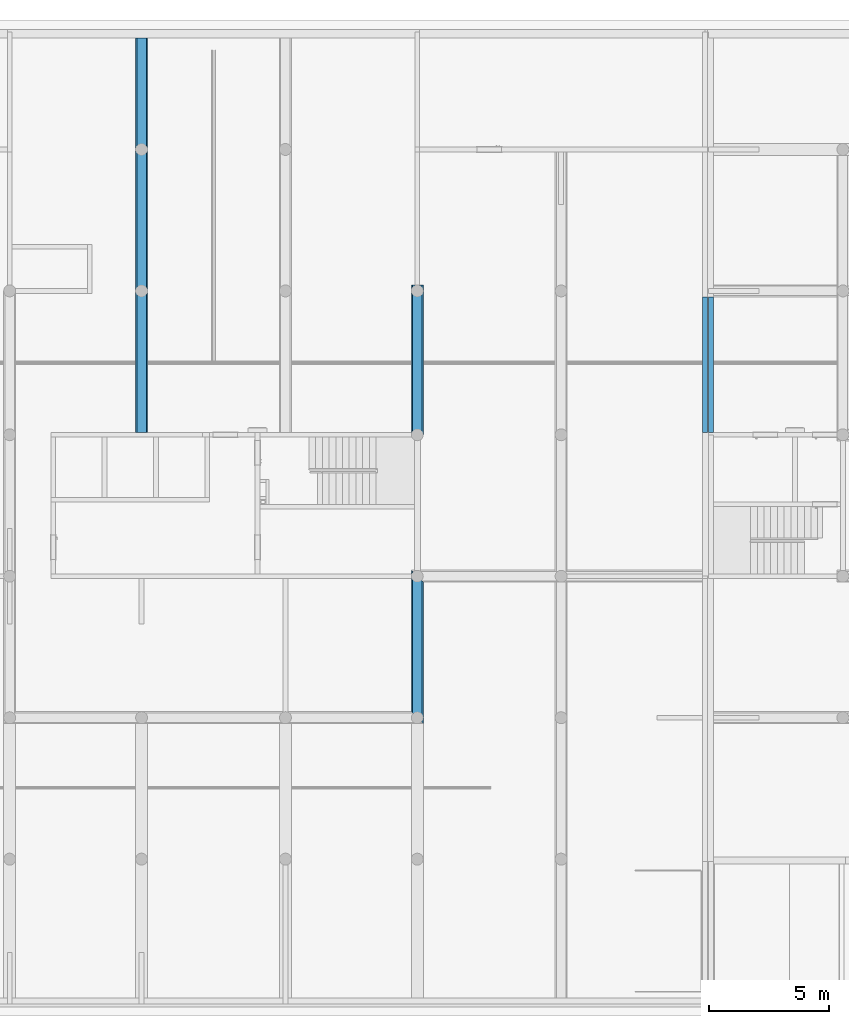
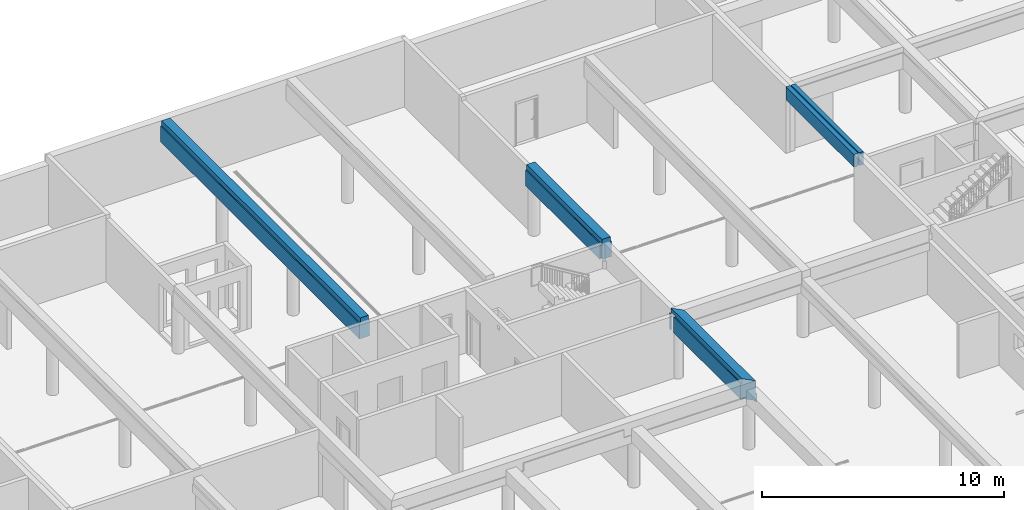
# One storey, part 10 of 25: 5 beams.
"""IFC2X3 building model written with IfcOpenShell, lengths in millimetres."""

from ifc_helpers import new_model, entity, si_unit, converted_unit, derived_unit, money_unit, direction, frame, origin_with_axes, place, context, subcontext, project, spatial, faceted_brep, material, material_list, type_object, element, save


model = new_model("IFC2X3")

# Units and contexts
model_context = context("Model", 3, precision=0.01, world=origin_with_axes(), true_north=direction((0.34421633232, 0.938890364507)))
body_context = subcontext(model_context, "Body", "Model", "MODEL_VIEW")
ifc_project = project(units=[si_unit("LENGTHUNIT", "METRE", prefix="MILLI"), si_unit("AREAUNIT", "SQUARE_METRE"), si_unit("VOLUMEUNIT", "CUBIC_METRE"), converted_unit("PLANEANGLEUNIT", "DEGREE", entity("IfcPlaneAngleMeasure", 0.0174532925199), si_unit("PLANEANGLEUNIT", "RADIAN"), dimensions=[0, 0, 0, 0, 0, 0, 0]), si_unit("SOLIDANGLEUNIT", "STERADIAN"), money_unit("USD"), converted_unit("TIMEUNIT", "Year", entity("IfcTimeMeasure", 31556926.0), si_unit("TIMEUNIT", "SECOND"), dimensions=[0, 0, 1, 0, 0, 0, 0]), si_unit("MASSUNIT", "GRAM", prefix="KILO"), si_unit("THERMODYNAMICTEMPERATUREUNIT", "DEGREE_CELSIUS"), si_unit("LUMINOUSINTENSITYUNIT", "LUMEN"), si_unit("ENERGYUNIT", "JOULE", prefix="MEGA"), derived_unit("THERMALCONDUCTANCEUNIT", [(si_unit("POWERUNIT", "WATT"), 1), (si_unit("LENGTHUNIT", "METRE"), -1), (si_unit("THERMODYNAMICTEMPERATUREUNIT", "KELVIN"), -1)]), derived_unit("SPECIFICHEATCAPACITYUNIT", [(si_unit("ENERGYUNIT", "JOULE"), 1), (si_unit("MASSUNIT", "GRAM", prefix="KILO"), -1), (si_unit("THERMODYNAMICTEMPERATUREUNIT", "KELVIN"), -1)]), derived_unit("MASSDENSITYUNIT", [(si_unit("MASSUNIT", "GRAM", prefix="KILO"), 1), (si_unit("VOLUMEUNIT", "CUBIC_METRE"), -1)])], contexts=[model_context])

# Site, building, storey
site_placement = place(None, origin_with_axes())
site = spatial("IfcSite", under=ifc_project, at=site_placement, Name="USTRONIE MORSKIE", CompositionType="ELEMENT")
building_placement = place(site_placement, origin_with_axes())
building = spatial("IfcBuilding", under=site, at=building_placement, Name="Budynek", CompositionType="ELEMENT")
storey_placement = place(building_placement, frame((0.0, 0.0, -3600.0), z_axis=(0.0, 0.0, 1.0), x_axis=(1.0, 0.0, 0.0)))
storey = spatial("IfcBuildingStorey", under=building, at=storey_placement, Name="GARAZ", CompositionType="ELEMENT", Elevation=-3600.0)

# Beams
ifc_material_1 = material(Name="Beton konstrukcyjny 01")
beam_type_1 = type_object("IfcBeamType", Name="Beton konstrukcyjny 01 200 x 650", PredefinedType="NOTDEFINED")
beam_1_placement = place(storey_placement, frame((408567.920919, 738551.199036, 3370.00030619), z_axis=(0.0, 0.0, 1.0), x_axis=(-1.0, 0.0, 0.0)))
element("IfcBeam", 1, at=beam_1_placement, inside=storey, type_object=beam_type_1, material=ifc_material_1, Name="B1", context=body_context, shape_type="Brep", body=[
    faceted_brep([(-100.0, 0.0, -650.00030624), (-100.0, 5650.0, -650.00030624), (100.0, 5650.0, -650.00030624), (100.0, 0.0, -650.00030624), (-100.0, 0.0, 0.0), (-100.0, 5650.0, 0.0), (100.0, 5650.0, 0.0), (100.0, 0.0, 0.0)], [[[0, 1, 2, 3]], [[4, 5, 1, 0]], [[2, 1, 5, 6]], [[3, 2, 6, 7]], [[4, 0, 3, 7]], [[7, 6, 5, 4]]]),
])
beam_2_placement = place(storey_placement, frame((408317.920919, 738551.199036, 3370.00030619), z_axis=(0.0, 0.0, 1.0), x_axis=(-1.0, 0.0, 0.0)))
element("IfcBeam", 2, at=beam_2_placement, inside=storey, type_object=beam_type_1, material=ifc_material_1, Name="B1", context=body_context, shape_type="Brep", body=[
    faceted_brep([(-100.0, 0.0, -650.000306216), (-100.0, 5650.0, -650.000306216), (100.0, 5650.0, -650.000306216), (100.0, 0.0, -650.000306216), (-100.0, 0.0, 0.0), (-100.0, 5650.0, 0.0), (100.0, 5650.0, 0.0), (100.0, 0.0, 0.0)], [[[0, 1, 2, 3]], [[4, 5, 1, 0]], [[2, 1, 5, 6]], [[3, 2, 6, 7]], [[4, 0, 3, 7]], [[7, 6, 5, 4]]]),
])
ifc_material_2 = material(Name="Termoizolacja WEŁNA SKALNA")
ifc_material_list = material_list([ifc_material_2, ifc_material_1])
beam_type_2 = type_object("IfcBeamType", Name="GARAŻ P01 500 x 1050", PredefinedType="NOTDEFINED")
beam_3_placement = place(storey_placement, frame((396317.920919, 732801.199036, 3370.00030619), z_axis=(0.0, 0.0, 1.0), x_axis=(1.0, 0.0, 0.0)))
element("IfcBeam", 3, at=beam_3_placement, inside=storey, type_object=beam_type_2, material=ifc_material_list, Name="B1", context=body_context, shape_type="Brep", body=[
    faceted_brep([(249.999993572, 5991.33732416, -1050.0), (249.999993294, 5991.33732098, -1000.0), (249.999993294, 6008.66267902, -1000.0), (249.999993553, 6008.66267606, -1050.0), (249.999993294, 6250.0, -1050.0), (249.999993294, 6250.0, -250.00000447), (249.999993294, 0.0, -250.00000447), (250.0, 0.0, -1000.0), (250.0, 0.0, -1050.0), (246.959817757, 5956.58795558, -1050.0), (246.959817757, 5956.58795558, -1000.0), (235.681034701, 5914.49496417, -1000.0), (217.26423045, 5875.0, -1000.0), (199.99999553, 5850.34411731, -1000.0), (199.99999553, 6149.65588269, -1000.0), (217.26423045, 6125.0, -1000.0), (235.681034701, 6085.50503583, -1000.0), (246.959817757, 6043.41204442, -1000.0), (246.959817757, 6043.41204442, -1050.0), (125.757879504, 6216.50635095, -1050.0), (100.728569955, 6228.17770967, -1050.0), (100.725766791, 6250.0, -1050.0), (235.681034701, 6085.50503583, -1050.0), (217.26423045, 6125.0, -1050.0), (192.268990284, 6160.69690242, -1050.0), (161.454781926, 6191.51111078, -1050.0), (100.725766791, 6250.0, -1000.00000224), (199.99999553, 6250.0, -1000.00000224), (199.99999553, 6250.0, -250.00000447), (199.99999553, 0.0, -250.00000447), (199.99999553, 0.0, -1000.0), (246.201938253, 43.4120444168, -1050.0), (246.201938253, 43.4120444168, -1000.0), (234.923155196, 85.5050358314, -1050.0), (216.506350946, 125.0, -1050.0), (191.51111078, 160.696902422, -1050.0), (160.696902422, 191.51111078, -1050.0), (125.0, 216.506350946, -1050.0), (85.5050358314, 234.923155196, -1050.0), (43.4120444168, 246.201938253, -1050.0), (0.0, 250.0, -1050.0), (-43.4120444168, 246.201938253, -1050.0), (-85.5050358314, 234.923155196, -1050.0), (-125.0, 216.506350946, -1050.0), (-160.696902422, 191.51111078, -1050.0), (-191.51111078, 160.696902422, -1050.0), (-216.506350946, 125.0, -1050.0), (-228.1640424, 100.0, -1050.0), (-250.0, 100.0, -1050.0), (-250.0, 6250.0, -1050.0), (-99.2742348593, 6250.0, -1050.0), (-99.2714281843, 6228.150376, -1050.0), (-124.242120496, 6216.50635095, -1050.0), (-159.939022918, 6191.51111078, -1050.0), (-190.753231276, 6160.69690242, -1050.0), (-215.748471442, 6125.0, -1050.0), (-234.165275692, 6085.50503583, -1050.0), (-245.444058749, 6043.41204442, -1050.0), (-249.242120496, 6000.0, -1050.0), (-245.444058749, 5956.58795558, -1050.0), (-234.165275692, 5914.49496417, -1050.0), (-215.748471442, 5875.0, -1050.0), (-190.753231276, 5839.30309758, -1050.0), (-159.939022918, 5808.48888922, -1050.0), (-124.242120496, 5783.49364905, -1050.0), (-84.7471563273, 5765.0768448, -1050.0), (-42.6541649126, 5753.79806175, -1050.0), (0.757879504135, 5750.0, -1050.0), (44.1699239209, 5753.79806175, -1050.0), (86.2629153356, 5765.0768448, -1050.0), (125.757879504, 5783.49364905, -1050.0), (161.454781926, 5808.48888922, -1050.0), (192.268990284, 5839.30309758, -1050.0), (217.26423045, 5875.0, -1050.0), (235.681034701, 5914.49496417, -1050.0), (192.268990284, 5839.30309758, -1000.0), (199.99999553, 148.573518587, -1000.0), (192.268990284, 6160.69690242, -1000.0), (125.757879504, 6216.50635095, -1000.0), (100.728569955, 6228.17770967, -1000.0), (161.454781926, 6191.51111078, -1000.0), (216.506350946, 125.0, -1000.0), (234.923155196, 85.5050358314, -1000.0), (191.51111078, 160.696902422, -1000.0), (160.696902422, 191.51111078, -1000.0), (125.0, 216.506350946, -1000.0), (85.5050358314, 234.923155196, -1000.0), (43.4120444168, 246.201938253, -1000.0), (0.0, 250.0, -1000.0), (-43.4120444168, 246.201938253, -1000.0), (-85.5050358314, 234.923155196, -1000.0), (-125.0, 216.506350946, -1000.0), (-160.696902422, 191.51111078, -1000.0), (-191.51111078, 160.696902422, -1000.0), (-200.000002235, 148.57350901, -1000.0), (-216.506350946, 125.0, -1000.0), (-228.1640424, 100.0, -1000.0), (-200.000002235, 100.0, -1000.0), (-200.000002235, 100.0, -250.00000447), (-250.0, 100.0, -250.00000447), (-250.0, 6250.0, -250.00000447), (-200.000002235, 6250.0, -1000.00000224), (-99.2742348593, 6250.0, -1000.00000224), (-200.000002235, 6250.0, -250.00000447), (-99.2714281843, 6228.150376, -1000.0), (-124.242120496, 6216.50635095, -1000.0), (-159.939022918, 6191.51111078, -1000.0), (-190.753231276, 6160.69690242, -1000.0), (-200.000002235, 6147.49114491, -1000.0), (-215.748471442, 6125.0, -1000.0), (-234.165275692, 6085.50503583, -1000.0), (-245.444058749, 6043.41204442, -1000.0), (-249.242120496, 6000.0, -1000.0), (-245.444058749, 5956.58795558, -1000.0), (-234.165275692, 5914.49496417, -1000.0), (-215.748471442, 5875.0, -1000.0), (-200.000002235, 5852.50885509, -1000.0), (-190.753231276, 5839.30309758, -1000.0), (-159.939022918, 5808.48888922, -1000.0), (-124.242120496, 5783.49364905, -1000.0), (-84.7471563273, 5765.0768448, -1000.0), (-42.6541649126, 5753.79806175, -1000.0), (0.757879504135, 5750.0, -1000.0), (44.1699239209, 5753.79806175, -1000.0), (86.2629153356, 5765.0768448, -1000.0), (125.757879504, 5783.49364905, -1000.0), (161.454781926, 5808.48888922, -1000.0)], [[[0, 1, 2, 3, 4, 5, 6, 7, 8]], [[1, 0, 9, 10]], [[2, 1, 10, 11, 12, 13, 14, 15, 16, 17]], [[3, 2, 17, 18]], [[19, 20, 21, 4, 3, 18, 22, 23, 24, 25]], [[4, 21, 26, 27, 28, 5]], [[29, 6, 5, 28]], [[30, 7, 6, 29]], [[31, 8, 7, 32]], [[9, 0, 8, 31, 33, 34, 35, 36, 37, 38, 39, 40, 41, 42, 43, 44, 45, 46, 47, 48, 49, 50, 51, 52, 53, 54, 55, 56, 57, 58, 59, 60, 61, 62, 63, 64, 65, 66, 67, 68, 69, 70, 71, 72, 73, 74]], [[9, 74, 11, 10]], [[74, 73, 12, 11]], [[73, 72, 75, 13, 12]], [[14, 13, 76, 30, 29, 28, 27]], [[24, 23, 15, 14, 77]], [[23, 22, 16, 15]], [[22, 18, 17, 16]], [[78, 79, 20, 19]], [[20, 79, 26, 21]], [[77, 80, 25, 24]], [[80, 78, 19, 25]], [[77, 14, 27, 26, 79, 78, 80]], [[7, 30, 76, 81, 82, 32]], [[33, 31, 32, 82]], [[34, 33, 82, 81]], [[35, 34, 81, 76, 83]], [[83, 84, 36, 35]], [[84, 85, 37, 36]], [[85, 86, 38, 37]], [[86, 87, 39, 38]], [[87, 88, 40, 39]], [[88, 89, 41, 40]], [[89, 90, 42, 41]], [[90, 91, 43, 42]], [[91, 92, 44, 43]], [[92, 93, 45, 44]], [[93, 94, 95, 46, 45]], [[47, 46, 95, 96]], [[96, 97, 98, 99, 48, 47]], [[49, 48, 99, 100]], [[101, 102, 50, 49, 100, 103]], [[104, 51, 50, 102]], [[51, 104, 105, 52]], [[105, 106, 53, 52]], [[106, 107, 54, 53]], [[107, 108, 109, 55, 54]], [[56, 55, 109, 110]], [[57, 56, 110, 111]], [[58, 57, 111, 112]], [[59, 58, 112, 113]], [[60, 59, 113, 114]], [[61, 60, 114, 115]], [[116, 117, 62, 61, 115]], [[117, 118, 63, 62]], [[118, 119, 64, 63]], [[119, 120, 65, 64]], [[120, 121, 66, 65]], [[121, 122, 67, 66]], [[122, 123, 68, 67]], [[123, 124, 69, 68]], [[124, 125, 70, 69]], [[125, 126, 71, 70]], [[126, 75, 72, 71]], [[117, 116, 94, 93, 92, 91, 90, 89, 88, 87, 86, 85, 84, 83, 76, 13, 75, 126, 125, 124, 123, 122, 121, 120, 119, 118]], [[94, 97, 96, 95]], [[116, 108, 101, 103, 98, 97, 94]], [[100, 99, 98, 103]], [[105, 104, 102, 101, 108, 107, 106]], [[108, 116, 115, 114, 113, 112, 111, 110, 109]]]),
    faceted_brep([(200.0, 0.0, -1000.0), (200.0, 6250.0, -1000.0), (199.99999553, 6250.0, -250.00000447), (199.99999553, 0.0, -250.00000447), (-200.0, 0.0, -1000.0), (-200.0, 6250.0, -1000.0), (-200.000002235, 6250.0, -250.00000447), (-200.0, 6250.0, 0.0), (200.0, 6250.0, 0.0), (200.0, 0.0, 0.0), (-200.0, 0.0, 0.0), (-200.000002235, 0.0, -250.00000447)], [[[0, 1, 2, 3]], [[4, 5, 1, 0]], [[2, 1, 5, 6, 7, 8]], [[3, 2, 8, 9]], [[4, 0, 3, 9, 10, 11]], [[11, 6, 5, 4]], [[10, 7, 6, 11]], [[9, 8, 7, 10]]]),
])
beam_4_placement = place(storey_placement, frame((396317.920919, 721001.199036, 3370.00030619), z_axis=(0.0, 0.0, 1.0), x_axis=(1.0, 0.0, 0.0)))
element("IfcBeam", 4, at=beam_4_placement, inside=storey, type_object=beam_type_2, material=ifc_material_list, Name="B1", context=body_context, shape_type="Brep", body=[
    faceted_brep([(249.999993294, -0.171527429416, -1050.0), (249.999993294, -0.171527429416, -1000.0), (249.999993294, 0.171527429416, -1000.0), (249.999993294, 0.171527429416, -1050.0), (249.999993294, 5650.00000671, -1050.0), (249.999993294, 5650.00000671, -650.000306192), (249.999993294, -249.999993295, -650.000306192), (249.999993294, -249.999993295, -1050.0), (246.216710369, -43.4146491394, -1050.0), (246.216710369, -43.4146491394, -1000.0), (234.937250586, -85.5101661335, -1000.0), (216.519341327, -125.0075, -1000.0), (199.99999553, -148.599570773, -1000.0), (199.99999553, 148.599570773, -1000.0), (216.519341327, 125.0075, -1000.0), (234.937250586, 85.5101661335, -1000.0), (246.216710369, 43.4146491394, -1000.0), (246.216710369, 43.4146491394, -1050.0), (-160.706544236, 191.522601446, -1050.0), (-176.114572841, 176.114572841, -1050.0), (-250.0, 250.0, -1050.0), (-250.0, 5800.0, -1050.0), (-228.1640424, 5800.0, -1050.0), (-216.506350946, 5775.0, -1050.0), (-191.51111078, 5739.30309758, -1050.0), (-160.696902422, 5708.48888922, -1050.0), (-125.0, 5683.49364905, -1050.0), (-85.5050358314, 5665.0768448, -1050.0), (-43.4120444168, 5653.79806175, -1050.0), (0.0, 5650.0, -1050.0), (43.4120444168, 5653.79806175, -1050.0), (85.5050358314, 5665.0768448, -1050.0), (125.0, 5683.49364905, -1050.0), (160.696902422, 5708.48888922, -1050.0), (176.104006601, 5723.8959934, -1050.0), (234.937250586, 85.5101661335, -1050.0), (216.519341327, 125.0075, -1050.0), (191.522601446, 160.706544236, -1050.0), (160.706544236, 191.522601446, -1050.0), (125.0075, 216.519341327, -1050.0), (85.5101661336, 234.937250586, -1050.0), (43.4146491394, 246.216710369, -1050.0), (0.0, 250.015, -1050.0), (-43.4146491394, 246.216710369, -1050.0), (-85.5101661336, 234.937250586, -1050.0), (-125.0075, 216.519341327, -1050.0), (176.104006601, 5723.8959934, -1000.00000224), (199.99999553, 5700.00000447, -1000.00000224), (199.99999553, 5700.00000447, -650.000306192), (199.99999553, -199.99999553, -650.000306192), (176.114572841, -176.114572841, -1000.0), (176.114572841, -176.114572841, -1050.0), (199.99999553, -199.99999553, -1000.00000224), (191.522601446, -160.706544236, -1050.0), (216.519341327, -125.0075, -1050.0), (234.937250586, -85.5101661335, -1050.0), (191.522601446, -160.706544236, -1000.0), (191.522601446, 160.706544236, -1000.0), (-160.706544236, 191.522601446, -1000.0), (-176.114572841, 176.114572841, -1000.0), (-200.000002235, 200.000002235, -1000.00000224), (-200.000002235, 200.000002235, -250.00000447), (-250.0, 250.0, -250.00000447), (-250.0, 5800.0, -250.00000447), (-228.1640424, 5800.0, -250.00000447), (-216.506350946, 5775.0, -250.00000447), (-200.000002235, 5751.42649099, -1000.00000224), (-191.51111078, 5739.30309758, -1000.00000224), (-200.000002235, 5751.42649099, -250.00000447), (-160.696902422, 5708.48888922, -1000.00000224), (-125.0, 5683.49364905, -1000.00000224), (-85.5050358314, 5665.0768448, -1000.00000224), (-43.4120444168, 5653.79806175, -1000.00000224), (0.0, 5650.0, -1000.00000224), (43.4120444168, 5653.79806175, -1000.00000224), (85.5050358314, 5665.0768448, -1000.00000224), (125.0, 5683.49364905, -1000.00000224), (160.696902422, 5708.48888922, -1000.00000224), (160.706544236, 191.522601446, -1000.0), (125.0075, 216.519341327, -1000.0), (85.5101661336, 234.937250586, -1000.0), (43.4146491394, 246.216710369, -1000.0), (0.0, 250.015, -1000.0), (-43.4146491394, 246.216710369, -1000.0), (-85.5101661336, 234.937250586, -1000.0), (-125.0075, 216.519341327, -1000.0)], [[[0, 1, 2, 3, 4, 5, 6, 7]], [[1, 0, 8, 9]], [[2, 1, 9, 10, 11, 12, 13, 14, 15, 16]], [[3, 2, 16, 17]], [[18, 19, 20, 21, 22, 23, 24, 25, 26, 27, 28, 29, 30, 31, 32, 33, 34, 4, 3, 17, 35, 36, 37, 38, 39, 40, 41, 42, 43, 44, 45]], [[34, 46, 47, 48, 5, 4]], [[49, 6, 5, 48]], [[50, 51, 7, 6, 49, 52]], [[8, 0, 7, 51, 53, 54, 55]], [[8, 55, 10, 9]], [[55, 54, 11, 10]], [[54, 53, 56, 12, 11]], [[13, 12, 52, 49, 48, 47]], [[37, 36, 14, 13, 57]], [[36, 35, 15, 14]], [[35, 17, 16, 15]], [[58, 59, 19, 18]], [[19, 59, 60, 61, 62, 20]], [[20, 62, 63, 21]], [[64, 22, 21, 63]], [[64, 65, 23, 22]], [[66, 67, 24, 23, 65, 68]], [[67, 69, 25, 24]], [[69, 70, 26, 25]], [[70, 71, 27, 26]], [[71, 72, 28, 27]], [[72, 73, 29, 28]], [[73, 74, 30, 29]], [[74, 75, 31, 30]], [[75, 76, 32, 31]], [[76, 77, 33, 32]], [[77, 46, 34, 33]], [[57, 78, 38, 37]], [[78, 79, 39, 38]], [[79, 80, 40, 39]], [[80, 81, 41, 40]], [[81, 82, 42, 41]], [[82, 83, 43, 42]], [[83, 84, 44, 43]], [[84, 85, 45, 44]], [[85, 58, 18, 45]], [[57, 13, 47, 46, 77, 76, 75, 74, 73, 72, 71, 70, 69, 67, 66, 60, 59, 58, 85, 84, 83, 82, 81, 80, 79, 78]], [[50, 56, 53, 51]], [[56, 50, 52, 12]], [[66, 68, 61, 60]], [[65, 64, 63, 62, 61, 68]]]),
    faceted_brep([(-200.000002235, 6048.57350901, -1000.00000224), (-191.51111078, 6060.69690242, -1000.00000224), (-176.104006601, 6076.1040066, -1000.00000224), (-200.000002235, 6100.00000224, -1000.00000224), (-200.000002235, 6048.57350901, -250.00000447), (-216.506350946, 6025.0, -250.00000447), (-216.506350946, 6025.0, -1050.0), (-191.51111078, 6060.69690242, -1050.0), (-176.104006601, 6076.1040066, -1050.0), (-250.0, 6150.0, -1050.0), (-250.0, 6150.0, -250.00000447), (-200.000002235, 6100.00000224, -250.00000447), (-250.0, 6000.0, -250.00000447), (-228.1640424, 6000.0, -250.00000447), (-228.1640424, 6000.0, -1050.0), (-250.0, 6000.0, -1050.0)], [[[0, 1, 2, 3]], [[1, 0, 4, 5, 6, 7]], [[8, 2, 1, 7]], [[2, 8, 9, 10, 11, 3]], [[4, 0, 3, 11]], [[5, 4, 11, 10, 12, 13]], [[5, 13, 14, 6]], [[6, 14, 15, 9, 8, 7]], [[10, 9, 15, 12]], [[14, 13, 12, 15]]]),
    faceted_brep([(199.99999553, 5700.00000447, -250.00000447), (199.99999553, -100.006562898, -250.00000447), (250.0, -100.006562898, -250.00000447), (249.999993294, 5650.00000671, -250.00000447), (199.99999553, 5700.00000447, -350.000306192), (199.99999553, -100.006562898, -350.000306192), (250.0, -100.006562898, -350.000306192), (249.999993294, 5650.00000671, -350.000306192)], [[[0, 1, 2, 3]], [[4, 5, 1, 0]], [[5, 6, 2, 1]], [[3, 2, 6, 7]], [[3, 7, 4, 0]], [[7, 6, 5, 4]]]),
    faceted_brep([(-176.104006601, 6076.1040066, -190.000306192), (-176.104006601, 6076.1040066, -1000.0), (-200.0, 6100.0, -1000.0), (-200.000002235, 6100.00000224, -250.00000447), (-200.0, 6100.0, 0.0), (200.0, 5700.0, 0.0), (199.99999553, 5700.00000447, -250.00000447), (200.0, 5700.0, -1000.0), (176.104006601, 5723.8959934, -1000.0), (176.104006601, 5723.8959934, -190.000306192), (-191.51111078, 6060.69690242, -190.000306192), (-191.51111078, 6060.69690242, -1000.0), (-200.0, 6048.5735122, -1000.0), (-200.000002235, 6048.57350901, -250.00000447), (-199.999998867, 5751.42648618, -190.000306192), (-200.000002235, 5751.42649099, -250.00000447), (-200.000002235, 200.000002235, -250.00000447), (-200.0, 200.0, 0.0), (-199.999998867, 6048.57351382, -190.000306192), (200.0, -200.0, 0.0), (199.99999553, -199.99999553, -250.00000447), (200.0, -200.0, -1000.0), (160.696902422, 5708.48888922, -1000.0), (-200.0, 200.0, -1000.0), (-200.0, 5751.4264878, -1000.0), (-191.51111078, 5739.30309758, -1000.0), (-160.696902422, 5708.48888922, -1000.0), (-125.0, 5683.49364905, -1000.0), (-85.5050358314, 5665.0768448, -1000.0), (-43.4120444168, 5653.79806175, -1000.0), (0.0, 5650.0, -1000.0), (43.4120444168, 5653.79806175, -1000.0), (85.5050358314, 5665.0768448, -1000.0), (125.0, 5683.49364905, -1000.0), (160.696902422, 5708.48888922, -190.000306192), (125.0, 5683.49364905, -190.000306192), (85.5050358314, 5665.0768448, -190.000306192), (43.4120444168, 5653.79806175, -190.000306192), (0.0, 5650.0, -190.000306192), (-43.4120444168, 5653.79806175, -190.000306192), (-85.5050358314, 5665.0768448, -190.000306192), (-125.0, 5683.49364905, -190.000306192), (-160.696902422, 5708.48888922, -190.000306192), (-191.51111078, 5739.30309758, -190.000306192)], [[[0, 1, 2, 3, 4, 5, 6, 7, 8, 9]], [[1, 0, 10, 11]], [[11, 12, 2, 1]], [[12, 13, 3, 2]], [[14, 15, 16, 17, 4, 3, 13, 18]], [[19, 5, 4, 17]], [[20, 6, 5, 19]], [[21, 7, 6, 20]], [[22, 8, 7, 21, 23, 24, 25, 26, 27, 28, 29, 30, 31, 32, 33]], [[9, 8, 22, 34]], [[0, 9, 34, 35, 36, 37, 38, 39, 40, 41, 42, 43, 14, 18, 10]], [[12, 11, 10, 18, 13]], [[25, 24, 15, 14, 43]], [[15, 24, 23, 16]], [[23, 21, 20, 19, 17, 16]], [[26, 25, 43, 42]], [[27, 26, 42, 41]], [[28, 27, 41, 40]], [[29, 28, 40, 39]], [[30, 29, 39, 38]], [[31, 30, 38, 37]], [[32, 31, 37, 36]], [[33, 32, 36, 35]], [[22, 33, 35, 34]]]),
])
beam_5_placement = place(storey_placement, frame((384817.920919, 732901.199036, 3370.00030619), z_axis=(0.0, 0.0, 1.0), x_axis=(1.0, 0.0, 0.0)))
element("IfcBeam", 5, at=beam_5_placement, inside=storey, type_object=beam_type_2, material=ifc_material_list, Name="B1", context=body_context, shape_type="Brep", body=[
    faceted_brep([(160.696902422, 11991.5111108, -1000.0), (191.51111078, 11960.6969024, -1000.0), (199.99999553, 11948.5735186, -1000.0), (199.99999553, 16450.0, -1000.00000224), (-200.000002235, 16450.0, -1000.00000224), (-200.000002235, 11948.573509, -1000.0), (-191.51111078, 11960.6969024, -1000.0), (-160.696902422, 11991.5111108, -1000.0), (-125.0, 12016.5063509, -1000.0), (-85.5050358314, 12034.9231552, -1000.0), (-43.4120444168, 12046.2019383, -1000.0), (0.0, 12050.0, -1000.0), (43.4120444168, 12046.2019383, -1000.0), (85.5050358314, 12034.9231552, -1000.0), (125.0, 12016.5063509, -1000.0), (160.696902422, 11991.5111108, -1050.0), (191.51111078, 11960.6969024, -1050.0), (216.506350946, 11925.0, -1050.0), (216.506350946, 11925.0, -1000.0), (199.99999553, 11651.4264814, -1000.0), (199.99999553, 6048.57351859, -1000.0), (199.99999553, 5751.42648141, -1000.0), (199.99999553, 0.0, -1000.00000224), (199.99999553, 0.0, -250.00000447), (199.99999553, 16450.0, -250.00000447), (-250.0, 16450.0, -1050.0), (-250.0, 16450.0, -250.00000447), (-200.000002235, 16450.0, -250.00000447), (249.999993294, 16450.0, -250.00000447), (249.999993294, 16450.0, -1050.0), (-200.000002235, 11651.426491, -1000.0), (-200.000002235, 0.0, -250.00000447), (-200.000002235, 0.0, -1000.00000224), (-200.000002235, 5751.42649099, -1000.0), (-200.000002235, 6048.57350901, -1000.0), (-216.506350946, 11925.0, -1000.0), (-216.506350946, 11925.0, -1050.0), (-191.51111078, 11960.6969024, -1050.0), (-160.696902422, 11991.5111108, -1050.0), (-125.0, 12016.5063509, -1050.0), (-85.5050358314, 12034.9231552, -1050.0), (-43.4120444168, 12046.2019383, -1050.0), (0.0, 12050.0, -1050.0), (43.4120444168, 12046.2019383, -1050.0), (85.5050358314, 12034.9231552, -1050.0), (125.0, 12016.5063509, -1050.0), (-246.201938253, 11843.4120444, -1050.0), (-250.0, 11800.0, -1050.0), (250.0, 11800.0, -1050.0), (246.201938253, 11843.4120444, -1050.0), (234.923155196, 11885.5050358, -1050.0), (-234.923155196, 11885.5050358, -1050.0), (234.923155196, 11885.5050358, -1000.0), (246.201938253, 11843.4120444, -1000.0), (250.0, 11800.0, -1000.0), (246.201938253, 11756.5879556, -1000.0), (234.923155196, 11714.4949642, -1000.0), (216.506350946, 11675.0, -1000.0), (-191.51111078, 11639.3030976, -1000.0), (-191.51111078, 6060.69690242, -1000.0), (-160.696902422, 6091.51111078, -1000.0), (-125.0, 6116.50635095, -1000.0), (-85.5050358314, 6134.9231552, -1000.0), (-43.4120444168, 6146.20193825, -1000.0), (0.0, 6150.0, -1000.0), (43.4120444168, 6146.20193825, -1000.0), (85.5050358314, 6134.9231552, -1000.0), (125.0, 6116.50635095, -1000.0), (160.696902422, 6091.51111078, -1000.0), (191.51111078, 6060.69690242, -1000.0), (191.51111078, 11639.3030976, -1000.0), (160.696902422, 11608.4888892, -1000.0), (125.0, 11583.4936491, -1000.0), (85.5050358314, 11565.0768448, -1000.0), (43.4120444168, 11553.7980617, -1000.0), (0.0, 11550.0, -1000.0), (-43.4120444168, 11553.7980617, -1000.0), (-85.5050358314, 11565.0768448, -1000.0), (-125.0, 11583.4936491, -1000.0), (-160.696902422, 11608.4888892, -1000.0), (216.506350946, 6025.0, -1000.0), (234.923155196, 5985.50503583, -1000.0), (246.201938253, 5943.41204442, -1000.0), (250.0, 5900.0, -1000.0), (246.201938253, 5856.58795558, -1000.0), (234.923155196, 5814.49496417, -1000.0), (216.506350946, 5775.0, -1000.0), (-191.51111078, 5739.30309758, -1000.0), (191.51111078, 5739.30309758, -1000.0), (160.696902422, 5708.48888922, -1000.0), (125.0, 5683.49364905, -1000.0), (85.5050358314, 5665.0768448, -1000.0), (43.4120444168, 5653.79806175, -1000.0), (0.0, 5650.0, -1000.0), (-43.4120444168, 5653.79806175, -1000.0), (-85.5050358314, 5665.0768448, -1000.0), (-125.0, 5683.49364905, -1000.0), (-160.696902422, 5708.48888922, -1000.0), (-250.0, 0.0, -250.00000447), (-250.0, 0.0, -1050.0), (249.999993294, 0.0, -1050.0), (249.999993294, 0.0, -250.00000447), (-250.0, 5900.0, -1050.0), (250.0, 5900.0, -1050.0), (-216.506350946, 11675.0, -1000.0), (-234.923155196, 11714.4949642, -1000.0), (-246.201938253, 11756.5879556, -1000.0), (-250.0, 11800.0, -1000.0), (-246.201938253, 11843.4120444, -1000.0), (-234.923155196, 11885.5050358, -1000.0), (-216.506350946, 5775.0, -1000.0), (-234.923155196, 5814.49496417, -1000.0), (-246.201938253, 5856.58795558, -1000.0), (-250.0, 5900.0, -1000.0), (-246.201938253, 5943.41204442, -1000.0), (-234.923155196, 5985.50503583, -1000.0), (-216.506350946, 6025.0, -1000.0), (246.201938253, 11756.5879556, -1050.0), (234.923155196, 11714.4949642, -1050.0), (216.506350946, 11675.0, -1050.0), (191.51111078, 11639.3030976, -1050.0), (-191.51111078, 11639.3030976, -1050.0), (-216.506350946, 11675.0, -1050.0), (-216.506350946, 6025.0, -1050.0), (-191.51111078, 6060.69690242, -1050.0), (-160.696902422, 6091.51111078, -1050.0), (-125.0, 6116.50635095, -1050.0), (-85.5050358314, 6134.9231552, -1050.0), (-43.4120444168, 6146.20193825, -1050.0), (0.0, 6150.0, -1050.0), (43.4120444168, 6146.20193825, -1050.0), (85.5050358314, 6134.9231552, -1050.0), (125.0, 6116.50635095, -1050.0), (160.696902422, 6091.51111078, -1050.0), (191.51111078, 6060.69690242, -1050.0), (216.506350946, 6025.0, -1050.0), (160.696902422, 11608.4888892, -1050.0), (125.0, 11583.4936491, -1050.0), (85.5050358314, 11565.0768448, -1050.0), (43.4120444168, 11553.7980617, -1050.0), (0.0, 11550.0, -1050.0), (-43.4120444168, 11553.7980617, -1050.0), (-85.5050358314, 11565.0768448, -1050.0), (-125.0, 11583.4936491, -1050.0), (-160.696902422, 11608.4888892, -1050.0), (234.923155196, 5985.50503583, -1050.0), (246.201938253, 5943.41204442, -1050.0), (246.201938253, 5856.58795558, -1050.0), (234.923155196, 5814.49496417, -1050.0), (216.506350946, 5775.0, -1050.0), (191.51111078, 5739.30309758, -1050.0), (-191.51111078, 5739.30309758, -1050.0), (-216.506350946, 5775.0, -1050.0), (160.696902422, 5708.48888922, -1050.0), (125.0, 5683.49364905, -1050.0), (85.5050358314, 5665.0768448, -1050.0), (43.4120444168, 5653.79806175, -1050.0), (0.0, 5650.0, -1050.0), (-43.4120444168, 5653.79806175, -1050.0), (-85.5050358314, 5665.0768448, -1050.0), (-125.0, 5683.49364905, -1050.0), (-160.696902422, 5708.48888922, -1050.0), (-246.201938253, 5856.58795558, -1050.0), (-234.923155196, 5814.49496417, -1050.0), (-234.923155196, 5985.50503583, -1050.0), (-246.201938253, 5943.41204442, -1050.0), (-246.201938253, 11756.5879556, -1050.0), (-234.923155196, 11714.4949642, -1050.0)], [[[0, 1, 2, 3, 4, 5, 6, 7, 8, 9, 10, 11, 12, 13, 14]], [[1, 0, 15, 16]], [[16, 17, 18, 2, 1]], [[2, 19, 20, 21, 22, 23, 24, 3]], [[25, 26, 27, 4, 3, 24, 28, 29]], [[30, 5, 4, 27, 31, 32, 33, 34]], [[6, 5, 35, 36, 37]], [[7, 6, 37, 38]], [[8, 7, 38, 39]], [[9, 8, 39, 40]], [[10, 9, 40, 41]], [[11, 10, 41, 42]], [[12, 11, 42, 43]], [[13, 12, 43, 44]], [[14, 13, 44, 45]], [[0, 14, 45, 15]], [[46, 47, 25, 29, 48, 49, 50, 17, 16, 15, 45, 44, 43, 42, 41, 40, 39, 38, 37, 36, 51]], [[17, 50, 52, 18]], [[19, 2, 18, 52, 53, 54, 55, 56, 57]], [[58, 30, 34, 59, 60, 61, 62, 63, 64, 65, 66, 67, 68, 69, 20, 19, 70, 71, 72, 73, 74, 75, 76, 77, 78, 79]], [[21, 20, 80, 81, 82, 83, 84, 85, 86]], [[87, 33, 32, 22, 21, 88, 89, 90, 91, 92, 93, 94, 95, 96, 97]], [[22, 32, 31, 98, 99, 100, 101, 23]], [[23, 101, 28, 24]], [[99, 98, 26, 25, 47, 102]], [[98, 31, 27, 26]], [[101, 100, 103, 48, 29, 28]], [[5, 30, 104, 105, 106, 107, 108, 109, 35]], [[34, 33, 110, 111, 112, 113, 114, 115, 116]], [[51, 36, 35, 109]], [[47, 46, 108, 107]], [[49, 48, 54, 53]], [[50, 49, 53, 52]], [[46, 51, 109, 108]], [[48, 117, 55, 54]], [[117, 118, 56, 55]], [[118, 119, 57, 56]], [[119, 120, 70, 19, 57]], [[30, 58, 121, 122, 104]], [[59, 34, 116, 123, 124]], [[60, 59, 124, 125]], [[61, 60, 125, 126]], [[62, 61, 126, 127]], [[63, 62, 127, 128]], [[64, 63, 128, 129]], [[65, 64, 129, 130]], [[66, 65, 130, 131]], [[67, 66, 131, 132]], [[68, 67, 132, 133]], [[69, 68, 133, 134]], [[134, 135, 80, 20, 69]], [[71, 70, 120, 136]], [[72, 71, 136, 137]], [[73, 72, 137, 138]], [[74, 73, 138, 139]], [[75, 74, 139, 140]], [[76, 75, 140, 141]], [[77, 76, 141, 142]], [[78, 77, 142, 143]], [[79, 78, 143, 144]], [[58, 79, 144, 121]], [[135, 145, 81, 80]], [[145, 146, 82, 81]], [[146, 103, 83, 82]], [[103, 147, 84, 83]], [[147, 148, 85, 84]], [[148, 149, 86, 85]], [[149, 150, 88, 21, 86]], [[33, 87, 151, 152, 110]], [[89, 88, 150, 153]], [[90, 89, 153, 154]], [[91, 90, 154, 155]], [[92, 91, 155, 156]], [[93, 92, 156, 157]], [[94, 93, 157, 158]], [[95, 94, 158, 159]], [[96, 95, 159, 160]], [[97, 96, 160, 161]], [[87, 97, 161, 151]], [[148, 147, 103, 100, 99, 102, 162, 163, 152, 151, 161, 160, 159, 158, 157, 156, 155, 154, 153, 150, 149]], [[118, 117, 48, 103, 146, 145, 135, 134, 133, 132, 131, 130, 129, 128, 127, 126, 125, 124, 123, 164, 165, 102, 47, 166, 167, 122, 121, 144, 143, 142, 141, 140, 139, 138, 137, 136, 120, 119]], [[122, 167, 105, 104]], [[167, 166, 106, 105]], [[166, 47, 107, 106]], [[152, 163, 111, 110]], [[163, 162, 112, 111]], [[162, 102, 113, 112]], [[102, 165, 114, 113]], [[165, 164, 115, 114]], [[164, 123, 116, 115]]]),
    faceted_brep([(200.0, 0.0, -1000.0), (200.0, 16450.0, -1000.0), (199.99999553, 16450.0, -250.00000447), (199.99999553, 0.0, -250.00000447), (-200.0, 0.0, -1000.0), (-200.0, 16450.0, -1000.0), (-200.000002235, 16450.0, -250.00000447), (-200.0, 16450.0, 0.0), (200.0, 16450.0, 0.0), (200.0, 0.0, 0.0), (-200.0, 0.0, 0.0), (-200.000002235, 0.0, -250.00000447)], [[[0, 1, 2, 3]], [[4, 5, 1, 0]], [[2, 1, 5, 6, 7, 8]], [[3, 2, 8, 9]], [[4, 0, 3, 9, 10, 11]], [[11, 6, 5, 4]], [[10, 7, 6, 11]], [[9, 8, 7, 10]]]),
])

save(model, "model.ifc")
